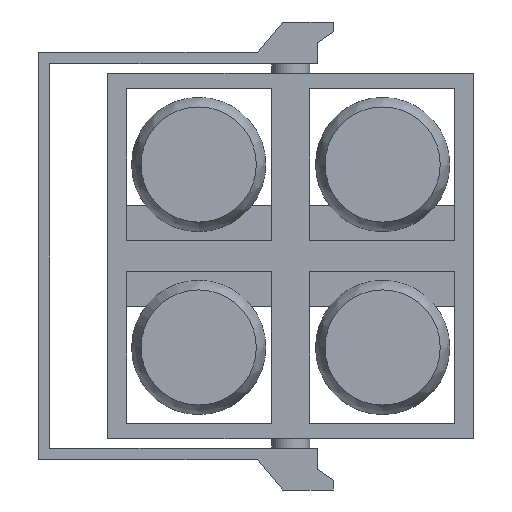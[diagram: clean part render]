
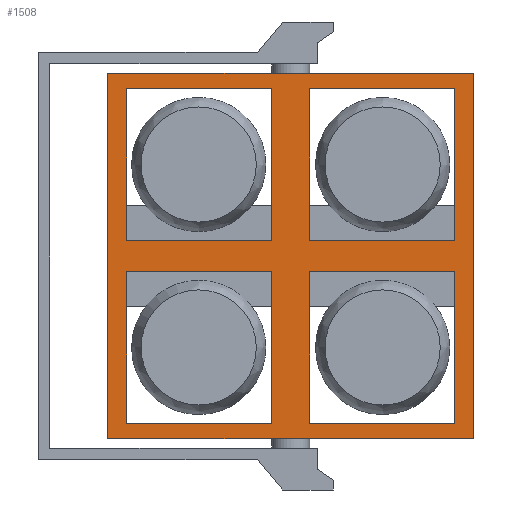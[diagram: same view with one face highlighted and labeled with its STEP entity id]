
A CAD part, left-side view. The second image highlights one B-rep face of the part: STEP entity #1508.
In plain terms, the highlighted planar face has unit normal (-1, 0, 0).
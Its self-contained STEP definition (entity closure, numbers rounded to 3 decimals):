
#93=FACE_BOUND('',#228,.T.);
#94=FACE_BOUND('',#229,.T.);
#95=FACE_BOUND('',#230,.T.);
#96=FACE_BOUND('',#231,.T.);
#140=FACE_OUTER_BOUND('',#227,.T.);
#227=EDGE_LOOP('',(#1186,#1187,#1188,#1189));
#228=EDGE_LOOP('',(#1190,#1191,#1192,#1193));
#229=EDGE_LOOP('',(#1194,#1195,#1196,#1197));
#230=EDGE_LOOP('',(#1198,#1199,#1200,#1201));
#231=EDGE_LOOP('',(#1202,#1203,#1204,#1205));
#357=LINE('',#2337,#529);
#360=LINE('',#2342,#532);
#362=LINE('',#2346,#534);
#364=LINE('',#2349,#536);
#365=LINE('',#2353,#537);
#368=LINE('',#2358,#540);
#370=LINE('',#2362,#542);
#372=LINE('',#2365,#544);
#374=LINE('',#2370,#546);
#376=LINE('',#2375,#548);
#379=LINE('',#2380,#551);
#381=LINE('',#2384,#553);
#383=LINE('',#2387,#555);
#385=LINE('',#2391,#557);
#386=LINE('',#2395,#558);
#389=LINE('',#2400,#561);
#391=LINE('',#2404,#563);
#393=LINE('',#2407,#565);
#394=LINE('',#2410,#566);
#395=LINE('',#2411,#567);
#529=VECTOR('',#1888,10.);
#532=VECTOR('',#1893,10.);
#534=VECTOR('',#1897,10.);
#536=VECTOR('',#1901,10.);
#537=VECTOR('',#1904,10.);
#540=VECTOR('',#1909,10.);
#542=VECTOR('',#1913,10.);
#544=VECTOR('',#1917,10.);
#546=VECTOR('',#1921,10.);
#548=VECTOR('',#1925,10.);
#551=VECTOR('',#1930,10.);
#553=VECTOR('',#1934,10.);
#555=VECTOR('',#1938,10.);
#557=VECTOR('',#1942,10.);
#558=VECTOR('',#1945,10.);
#561=VECTOR('',#1950,10.);
#563=VECTOR('',#1954,10.);
#565=VECTOR('',#1958,10.);
#566=VECTOR('',#1961,10.);
#567=VECTOR('',#1962,10.);
#683=VERTEX_POINT('',#2335);
#684=VERTEX_POINT('',#2336);
#685=VERTEX_POINT('',#2341);
#686=VERTEX_POINT('',#2345);
#687=VERTEX_POINT('',#2351);
#688=VERTEX_POINT('',#2352);
#689=VERTEX_POINT('',#2357);
#690=VERTEX_POINT('',#2361);
#691=VERTEX_POINT('',#2367);
#692=VERTEX_POINT('',#2369);
#693=VERTEX_POINT('',#2373);
#694=VERTEX_POINT('',#2374);
#695=VERTEX_POINT('',#2379);
#696=VERTEX_POINT('',#2383);
#697=VERTEX_POINT('',#2389);
#698=VERTEX_POINT('',#2393);
#699=VERTEX_POINT('',#2394);
#700=VERTEX_POINT('',#2399);
#701=VERTEX_POINT('',#2403);
#702=VERTEX_POINT('',#2409);
#845=EDGE_CURVE('',#683,#684,#357,.T.);
#848=EDGE_CURVE('',#685,#683,#360,.T.);
#850=EDGE_CURVE('',#686,#685,#362,.T.);
#852=EDGE_CURVE('',#684,#686,#364,.T.);
#853=EDGE_CURVE('',#687,#688,#365,.T.);
#856=EDGE_CURVE('',#689,#687,#368,.T.);
#858=EDGE_CURVE('',#690,#689,#370,.T.);
#860=EDGE_CURVE('',#688,#690,#372,.T.);
#862=EDGE_CURVE('',#692,#691,#374,.T.);
#864=EDGE_CURVE('',#693,#694,#376,.T.);
#867=EDGE_CURVE('',#695,#693,#379,.T.);
#869=EDGE_CURVE('',#696,#695,#381,.T.);
#871=EDGE_CURVE('',#694,#696,#383,.T.);
#873=EDGE_CURVE('',#697,#691,#385,.T.);
#874=EDGE_CURVE('',#698,#699,#386,.T.);
#877=EDGE_CURVE('',#700,#698,#389,.T.);
#879=EDGE_CURVE('',#701,#700,#391,.T.);
#881=EDGE_CURVE('',#699,#701,#393,.T.);
#882=EDGE_CURVE('',#702,#692,#394,.T.);
#883=EDGE_CURVE('',#702,#697,#395,.T.);
#1186=ORIENTED_EDGE('',*,*,#882,.T.);
#1187=ORIENTED_EDGE('',*,*,#862,.T.);
#1188=ORIENTED_EDGE('',*,*,#873,.F.);
#1189=ORIENTED_EDGE('',*,*,#883,.F.);
#1190=ORIENTED_EDGE('',*,*,#853,.F.);
#1191=ORIENTED_EDGE('',*,*,#856,.F.);
#1192=ORIENTED_EDGE('',*,*,#858,.F.);
#1193=ORIENTED_EDGE('',*,*,#860,.F.);
#1194=ORIENTED_EDGE('',*,*,#845,.T.);
#1195=ORIENTED_EDGE('',*,*,#852,.T.);
#1196=ORIENTED_EDGE('',*,*,#850,.T.);
#1197=ORIENTED_EDGE('',*,*,#848,.T.);
#1198=ORIENTED_EDGE('',*,*,#864,.F.);
#1199=ORIENTED_EDGE('',*,*,#867,.F.);
#1200=ORIENTED_EDGE('',*,*,#869,.F.);
#1201=ORIENTED_EDGE('',*,*,#871,.F.);
#1202=ORIENTED_EDGE('',*,*,#874,.T.);
#1203=ORIENTED_EDGE('',*,*,#881,.T.);
#1204=ORIENTED_EDGE('',*,*,#879,.T.);
#1205=ORIENTED_EDGE('',*,*,#877,.T.);
#1437=PLANE('',#1676);
#1508=ADVANCED_FACE('',(#140,#93,#94,#95,#96),#1437,.T.);
#1676=AXIS2_PLACEMENT_3D('',#2408,#1959,#1960);
#1888=DIRECTION('',(0.,1.,0.));
#1893=DIRECTION('',(0.,0.,-1.));
#1897=DIRECTION('',(0.,-1.,0.));
#1901=DIRECTION('',(0.,0.,1.));
#1904=DIRECTION('',(0.,-1.,0.));
#1909=DIRECTION('',(0.,0.,-1.));
#1913=DIRECTION('',(0.,1.,0.));
#1917=DIRECTION('',(0.,0.,1.));
#1921=DIRECTION('',(0.,-1.,0.));
#1925=DIRECTION('',(0.,1.,0.));
#1930=DIRECTION('',(0.,0.,1.));
#1934=DIRECTION('',(0.,-1.,0.));
#1938=DIRECTION('',(0.,0.,-1.));
#1942=DIRECTION('',(0.,0.,-1.));
#1945=DIRECTION('',(0.,-1.,0.));
#1950=DIRECTION('',(0.,0.,1.));
#1954=DIRECTION('',(0.,1.,0.));
#1958=DIRECTION('',(0.,0.,-1.));
#1959=DIRECTION('center_axis',(-1.,0.,0.));
#1960=DIRECTION('ref_axis',(0.,0.,1.));
#1961=DIRECTION('',(0.,0.,-1.));
#1962=DIRECTION('',(0.,-1.,0.));
#2335=CARTESIAN_POINT('',(-46.3,-170.338,-173.692));
#2336=CARTESIAN_POINT('',(-46.3,-19.703,-173.692));
#2337=CARTESIAN_POINT('',(-46.3,-132.669,-173.692));
#2341=CARTESIAN_POINT('',(-46.3,-170.338,-16.293));
#2342=CARTESIAN_POINT('',(-46.3,-170.338,-55.646));
#2345=CARTESIAN_POINT('',(-46.3,-19.703,-16.293));
#2346=CARTESIAN_POINT('',(-46.3,-57.351,-16.293));
#2349=CARTESIAN_POINT('',(-46.3,-19.703,-134.346));
#2351=CARTESIAN_POINT('',(-46.3,170.338,-173.692));
#2352=CARTESIAN_POINT('',(-46.3,19.703,-173.692));
#2353=CARTESIAN_POINT('',(-46.3,132.669,-173.692));
#2357=CARTESIAN_POINT('',(-46.3,170.338,-16.293));
#2358=CARTESIAN_POINT('',(-46.3,170.338,-55.646));
#2361=CARTESIAN_POINT('',(-46.3,19.703,-16.293));
#2362=CARTESIAN_POINT('',(-46.3,57.351,-16.293));
#2365=CARTESIAN_POINT('',(-46.3,19.703,-134.346));
#2367=CARTESIAN_POINT('',(-46.3,-190.,-190.));
#2369=CARTESIAN_POINT('',(-46.3,190.,-190.));
#2370=CARTESIAN_POINT('',(-46.3,142.5,-190.));
#2373=CARTESIAN_POINT('',(-46.3,-170.338,173.692));
#2374=CARTESIAN_POINT('',(-46.3,-19.703,173.692));
#2375=CARTESIAN_POINT('',(-46.3,-132.669,173.692));
#2379=CARTESIAN_POINT('',(-46.3,-170.338,16.293));
#2380=CARTESIAN_POINT('',(-46.3,-170.338,55.646));
#2383=CARTESIAN_POINT('',(-46.3,-19.703,16.293));
#2384=CARTESIAN_POINT('',(-46.3,-57.351,16.293));
#2387=CARTESIAN_POINT('',(-46.3,-19.703,134.346));
#2389=CARTESIAN_POINT('',(-46.3,-190.,190.));
#2391=CARTESIAN_POINT('',(-46.3,-190.,47.5));
#2393=CARTESIAN_POINT('',(-46.3,170.338,173.692));
#2394=CARTESIAN_POINT('',(-46.3,19.703,173.692));
#2395=CARTESIAN_POINT('',(-46.3,132.669,173.692));
#2399=CARTESIAN_POINT('',(-46.3,170.338,16.293));
#2400=CARTESIAN_POINT('',(-46.3,170.338,55.646));
#2403=CARTESIAN_POINT('',(-46.3,19.703,16.293));
#2404=CARTESIAN_POINT('',(-46.3,57.351,16.293));
#2407=CARTESIAN_POINT('',(-46.3,19.703,134.346));
#2408=CARTESIAN_POINT('Origin',(-46.3,95.,95.));
#2409=CARTESIAN_POINT('',(-46.3,190.,190.));
#2410=CARTESIAN_POINT('',(-46.3,190.,47.5));
#2411=CARTESIAN_POINT('',(-46.3,142.5,190.));
